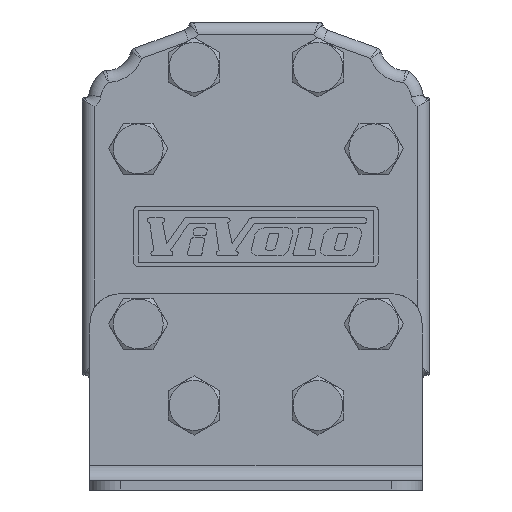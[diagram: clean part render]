
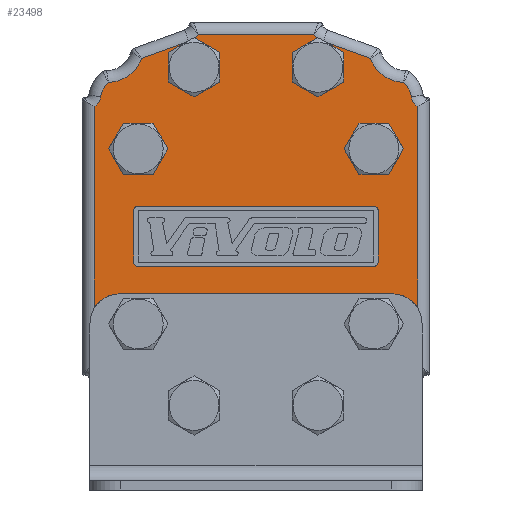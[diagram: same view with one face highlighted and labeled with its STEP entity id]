
A CAD part, front view. The second image highlights one B-rep face of the part: STEP entity #23498.
In plain terms, the highlighted planar face has unit normal (0, -1, 0).
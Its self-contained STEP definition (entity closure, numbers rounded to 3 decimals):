
#1738=LINE('',#36383,#3086);
#1739=LINE('',#36388,#3087);
#1740=LINE('',#36392,#3088);
#1741=LINE('',#36400,#3089);
#1742=LINE('',#36404,#3090);
#1743=LINE('',#36408,#3091);
#1744=LINE('',#36415,#3092);
#1745=LINE('',#36420,#3093);
#1746=LINE('',#36424,#3094);
#1747=LINE('',#36428,#3095);
#3086=VECTOR('',#29249,1000.);
#3087=VECTOR('',#29252,1000.);
#3088=VECTOR('',#29255,1000.);
#3089=VECTOR('',#29262,1000.);
#3090=VECTOR('',#29265,1000.);
#3091=VECTOR('',#29268,1000.);
#3092=VECTOR('',#29275,1000.);
#3093=VECTOR('',#29278,1000.);
#3094=VECTOR('',#29281,1000.);
#3095=VECTOR('',#29284,1000.);
#6876=ORIENTED_EDGE('',*,*,#10190,.F.);
#6877=ORIENTED_EDGE('',*,*,#10191,.F.);
#6878=ORIENTED_EDGE('',*,*,#10192,.T.);
#6879=ORIENTED_EDGE('',*,*,#10193,.T.);
#6880=ORIENTED_EDGE('',*,*,#10194,.F.);
#6881=ORIENTED_EDGE('',*,*,#10195,.T.);
#6882=ORIENTED_EDGE('',*,*,#10196,.T.);
#6883=ORIENTED_EDGE('',*,*,#10197,.T.);
#6884=ORIENTED_EDGE('',*,*,#10198,.T.);
#6885=ORIENTED_EDGE('',*,*,#10199,.T.);
#6886=ORIENTED_EDGE('',*,*,#10200,.T.);
#6887=ORIENTED_EDGE('',*,*,#10201,.T.);
#6888=ORIENTED_EDGE('',*,*,#10202,.T.);
#6889=ORIENTED_EDGE('',*,*,#10203,.T.);
#6890=ORIENTED_EDGE('',*,*,#10204,.T.);
#6891=ORIENTED_EDGE('',*,*,#10205,.T.);
#6892=ORIENTED_EDGE('',*,*,#10206,.T.);
#6893=ORIENTED_EDGE('',*,*,#10207,.T.);
#6894=ORIENTED_EDGE('',*,*,#10208,.F.);
#6895=ORIENTED_EDGE('',*,*,#10209,.F.);
#6896=ORIENTED_EDGE('',*,*,#10210,.F.);
#6897=ORIENTED_EDGE('',*,*,#10211,.F.);
#6898=ORIENTED_EDGE('',*,*,#10212,.F.);
#6899=ORIENTED_EDGE('',*,*,#10213,.F.);
#6900=ORIENTED_EDGE('',*,*,#10214,.F.);
#6901=ORIENTED_EDGE('',*,*,#10215,.F.);
#6902=ORIENTED_EDGE('',*,*,#10216,.F.);
#6903=ORIENTED_EDGE('',*,*,#10217,.F.);
#10190=EDGE_CURVE('',#12094,#12094,#13280,.F.);
#10191=EDGE_CURVE('',#12095,#12095,#13281,.F.);
#10192=EDGE_CURVE('',#12096,#12097,#1738,.F.);
#10193=EDGE_CURVE('',#12097,#12098,#13282,.T.);
#10194=EDGE_CURVE('',#12099,#12098,#1739,.T.);
#10195=EDGE_CURVE('',#12099,#12100,#13283,.T.);
#10196=EDGE_CURVE('',#12100,#12101,#1740,.F.);
#10197=EDGE_CURVE('',#12101,#12102,#13284,.T.);
#10198=EDGE_CURVE('',#12102,#12103,#13285,.F.);
#10199=EDGE_CURVE('',#12103,#12104,#13286,.T.);
#10200=EDGE_CURVE('',#12104,#12105,#1741,.F.);
#10201=EDGE_CURVE('',#12105,#12106,#13287,.T.);
#10202=EDGE_CURVE('',#12106,#12107,#1742,.F.);
#10203=EDGE_CURVE('',#12107,#12108,#13288,.T.);
#10204=EDGE_CURVE('',#12108,#12109,#1743,.F.);
#10205=EDGE_CURVE('',#12109,#12110,#13289,.T.);
#10206=EDGE_CURVE('',#12110,#12111,#13290,.F.);
#10207=EDGE_CURVE('',#12111,#12096,#13291,.T.);
#10208=EDGE_CURVE('',#12112,#12113,#1744,.T.);
#10209=EDGE_CURVE('',#12114,#12112,#13292,.T.);
#10210=EDGE_CURVE('',#12115,#12114,#1745,.T.);
#10211=EDGE_CURVE('',#12116,#12115,#13293,.T.);
#10212=EDGE_CURVE('',#12117,#12116,#1746,.T.);
#10213=EDGE_CURVE('',#12118,#12117,#13294,.T.);
#10214=EDGE_CURVE('',#12119,#12118,#1747,.T.);
#10215=EDGE_CURVE('',#12113,#12119,#13295,.T.);
#10216=EDGE_CURVE('',#12120,#12120,#13296,.F.);
#10217=EDGE_CURVE('',#12121,#12121,#13297,.F.);
#12094=VERTEX_POINT('',#36380);
#12095=VERTEX_POINT('',#36382);
#12096=VERTEX_POINT('',#36384);
#12097=VERTEX_POINT('',#36385);
#12098=VERTEX_POINT('',#36387);
#12099=VERTEX_POINT('',#36389);
#12100=VERTEX_POINT('',#36391);
#12101=VERTEX_POINT('',#36393);
#12102=VERTEX_POINT('',#36395);
#12103=VERTEX_POINT('',#36397);
#12104=VERTEX_POINT('',#36399);
#12105=VERTEX_POINT('',#36401);
#12106=VERTEX_POINT('',#36403);
#12107=VERTEX_POINT('',#36405);
#12108=VERTEX_POINT('',#36407);
#12109=VERTEX_POINT('',#36409);
#12110=VERTEX_POINT('',#36411);
#12111=VERTEX_POINT('',#36413);
#12112=VERTEX_POINT('',#36416);
#12113=VERTEX_POINT('',#36417);
#12114=VERTEX_POINT('',#36419);
#12115=VERTEX_POINT('',#36421);
#12116=VERTEX_POINT('',#36423);
#12117=VERTEX_POINT('',#36425);
#12118=VERTEX_POINT('',#36427);
#12119=VERTEX_POINT('',#36429);
#12120=VERTEX_POINT('',#36432);
#12121=VERTEX_POINT('',#36434);
#13280=CIRCLE('',#25150,8.);
#13281=CIRCLE('',#25151,8.);
#13282=CIRCLE('',#25152,10.);
#13283=CIRCLE('',#25153,10.);
#13284=CIRCLE('',#25154,5.);
#13285=CIRCLE('',#25155,8.006);
#13286=CIRCLE('',#25156,12.);
#13287=CIRCLE('',#25157,6.5);
#13288=CIRCLE('',#25158,6.5);
#13289=CIRCLE('',#25159,12.);
#13290=CIRCLE('',#25160,8.006);
#13291=CIRCLE('',#25161,5.);
#13292=CIRCLE('',#25162,1.5);
#13293=CIRCLE('',#25163,1.5);
#13294=CIRCLE('',#25164,1.5);
#13295=CIRCLE('',#25165,1.5);
#13296=CIRCLE('',#25166,8.);
#13297=CIRCLE('',#25167,8.);
#14197=EDGE_LOOP('',(#6876));
#14198=EDGE_LOOP('',(#6877));
#14199=EDGE_LOOP('',(#6878,#6879,#6880,#6881,#6882,#6883,#6884,#6885,#6886,
#6887,#6888,#6889,#6890,#6891,#6892,#6893));
#14200=EDGE_LOOP('',(#6894,#6895,#6896,#6897,#6898,#6899,#6900,#6901));
#14201=EDGE_LOOP('',(#6902));
#14202=EDGE_LOOP('',(#6903));
#15291=FACE_BOUND('',#14197,.T.);
#15292=FACE_BOUND('',#14198,.T.);
#15293=FACE_BOUND('',#14199,.T.);
#15294=FACE_BOUND('',#14200,.T.);
#15295=FACE_BOUND('',#14201,.T.);
#15296=FACE_BOUND('',#14202,.T.);
#15938=PLANE('',#25149);
#23498=ADVANCED_FACE('',(#15291,#15292,#15293,#15294,#15295,#15296),#15938,
 .F.);
#25149=AXIS2_PLACEMENT_3D('',#36378,#29243,#29244);
#25150=AXIS2_PLACEMENT_3D('',#36379,#29245,#29246);
#25151=AXIS2_PLACEMENT_3D('',#36381,#29247,#29248);
#25152=AXIS2_PLACEMENT_3D('',#36386,#29250,#29251);
#25153=AXIS2_PLACEMENT_3D('',#36390,#29253,#29254);
#25154=AXIS2_PLACEMENT_3D('',#36394,#29256,#29257);
#25155=AXIS2_PLACEMENT_3D('',#36396,#29258,#29259);
#25156=AXIS2_PLACEMENT_3D('',#36398,#29260,#29261);
#25157=AXIS2_PLACEMENT_3D('',#36402,#29263,#29264);
#25158=AXIS2_PLACEMENT_3D('',#36406,#29266,#29267);
#25159=AXIS2_PLACEMENT_3D('',#36410,#29269,#29270);
#25160=AXIS2_PLACEMENT_3D('',#36412,#29271,#29272);
#25161=AXIS2_PLACEMENT_3D('',#36414,#29273,#29274);
#25162=AXIS2_PLACEMENT_3D('',#36418,#29276,#29277);
#25163=AXIS2_PLACEMENT_3D('',#36422,#29279,#29280);
#25164=AXIS2_PLACEMENT_3D('',#36426,#29282,#29283);
#25165=AXIS2_PLACEMENT_3D('',#36430,#29285,#29286);
#25166=AXIS2_PLACEMENT_3D('',#36431,#29287,#29288);
#25167=AXIS2_PLACEMENT_3D('',#36433,#29289,#29290);
#29243=DIRECTION('',(0.,1.,0.));
#29244=DIRECTION('',(0.,0.,1.));
#29245=DIRECTION('',(0.,1.,0.));
#29246=DIRECTION('',(0.,0.,1.));
#29247=DIRECTION('',(0.,1.,0.));
#29248=DIRECTION('',(0.,0.,1.));
#29249=DIRECTION('',(0.,0.,1.));
#29250=DIRECTION('',(0.,1.,0.));
#29251=DIRECTION('',(0.,0.,1.));
#29252=DIRECTION('',(-1.,0.,0.));
#29253=DIRECTION('',(0.,1.,0.));
#29254=DIRECTION('',(0.,0.,1.));
#29255=DIRECTION('',(0.,0.,-1.));
#29256=DIRECTION('',(0.,1.,0.));
#29257=DIRECTION('',(0.,0.,1.));
#29258=DIRECTION('',(0.,1.,0.));
#29259=DIRECTION('',(0.,0.,1.));
#29260=DIRECTION('',(0.,1.,0.));
#29261=DIRECTION('',(0.,0.,1.));
#29262=DIRECTION('',(0.94,0.,-0.342));
#29263=DIRECTION('',(0.,1.,0.));
#29264=DIRECTION('',(0.,0.,1.));
#29265=DIRECTION('',(1.,0.,0.));
#29266=DIRECTION('',(0.,1.,0.));
#29267=DIRECTION('',(0.,0.,1.));
#29268=DIRECTION('',(0.94,0.,0.342));
#29269=DIRECTION('',(0.,1.,0.));
#29270=DIRECTION('',(0.,0.,1.));
#29271=DIRECTION('',(0.,1.,0.));
#29272=DIRECTION('',(0.,0.,1.));
#29273=DIRECTION('',(0.,1.,0.));
#29274=DIRECTION('',(0.,0.,1.));
#29275=DIRECTION('',(-1.,0.,0.));
#29276=DIRECTION('',(0.,-1.,0.));
#29277=DIRECTION('',(-1.,0.,0.));
#29278=DIRECTION('',(0.,0.,1.));
#29279=DIRECTION('',(0.,-1.,0.));
#29280=DIRECTION('',(-1.,0.,0.));
#29281=DIRECTION('',(1.,0.,0.));
#29282=DIRECTION('',(0.,-1.,0.));
#29283=DIRECTION('',(1.,0.,0.));
#29284=DIRECTION('',(0.,0.,-1.));
#29285=DIRECTION('',(0.,-1.,0.));
#29286=DIRECTION('',(1.,0.,0.));
#29287=DIRECTION('',(0.,1.,0.));
#29288=DIRECTION('',(0.,0.,1.));
#29289=DIRECTION('',(0.,1.,0.));
#29290=DIRECTION('',(0.,0.,1.));
#36378=CARTESIAN_POINT('',(-39.521,-30.,60.467));
#36379=CARTESIAN_POINT('',(-20.5,-30.,56.));
#36380=CARTESIAN_POINT('',(-20.5,-30.,64.));
#36381=CARTESIAN_POINT('',(39.,-30.,29.));
#36382=CARTESIAN_POINT('',(39.,-30.,37.));
#36383=CARTESIAN_POINT('',(-53.5,-30.,-45.5));
#36384=CARTESIAN_POINT('',(-53.5,-30.,42.908));
#36385=CARTESIAN_POINT('',(-53.5,-30.,-23.732));
#36386=CARTESIAN_POINT('',(-45.,-30.,-29.));
#36387=CARTESIAN_POINT('',(-45.,-30.,-19.));
#36388=CARTESIAN_POINT('',(55.,-30.,-19.));
#36389=CARTESIAN_POINT('',(45.,-30.,-19.));
#36390=CARTESIAN_POINT('',(45.,-30.,-29.));
#36391=CARTESIAN_POINT('',(53.5,-30.,-23.732));
#36392=CARTESIAN_POINT('',(53.5,-30.,45.5));
#36393=CARTESIAN_POINT('',(53.5,-30.,42.908));
#36394=CARTESIAN_POINT('',(56.373,-30.,47.));
#36395=CARTESIAN_POINT('',(51.434,-30.,46.222));
#36396=CARTESIAN_POINT('',(43.526,-30.,44.978));
#36397=CARTESIAN_POINT('',(48.816,-30.,50.986));
#36398=CARTESIAN_POINT('',(49.2,-30.,62.98));
#36399=CARTESIAN_POINT('',(37.905,-30.,58.927));
#36400=CARTESIAN_POINT('',(22.295,-30.,64.613));
#36401=CARTESIAN_POINT('',(22.295,-30.,64.613));
#36402=CARTESIAN_POINT('',(24.52,-30.,70.72));
#36403=CARTESIAN_POINT('',(19.189,-30.,67.));
#36404=CARTESIAN_POINT('',(-20.859,-30.,67.));
#36405=CARTESIAN_POINT('',(-19.189,-30.,67.));
#36406=CARTESIAN_POINT('',(-24.52,-30.,70.72));
#36407=CARTESIAN_POINT('',(-22.295,-30.,64.613));
#36408=CARTESIAN_POINT('',(-38.836,-30.,58.587));
#36409=CARTESIAN_POINT('',(-37.905,-30.,58.927));
#36410=CARTESIAN_POINT('',(-49.2,-30.,62.98));
#36411=CARTESIAN_POINT('',(-48.816,-30.,50.986));
#36412=CARTESIAN_POINT('',(-43.526,-30.,44.978));
#36413=CARTESIAN_POINT('',(-51.434,-30.,46.222));
#36414=CARTESIAN_POINT('',(-56.373,-30.,47.));
#36415=CARTESIAN_POINT('',(38.989,-30.,10.));
#36416=CARTESIAN_POINT('',(38.989,-30.,10.));
#36417=CARTESIAN_POINT('',(-39.011,-30.,10.));
#36418=CARTESIAN_POINT('',(38.989,-30.,8.5));
#36419=CARTESIAN_POINT('',(40.489,-30.,8.5));
#36420=CARTESIAN_POINT('',(40.489,-30.,-8.5));
#36421=CARTESIAN_POINT('',(40.489,-30.,-8.5));
#36422=CARTESIAN_POINT('',(38.989,-30.,-8.5));
#36423=CARTESIAN_POINT('',(38.989,-30.,-10.));
#36424=CARTESIAN_POINT('',(-39.011,-30.,-10.));
#36425=CARTESIAN_POINT('',(-39.011,-30.,-10.));
#36426=CARTESIAN_POINT('',(-39.011,-30.,-8.5));
#36427=CARTESIAN_POINT('',(-40.511,-30.,-8.5));
#36428=CARTESIAN_POINT('',(-40.511,-30.,8.5));
#36429=CARTESIAN_POINT('',(-40.511,-30.,8.5));
#36430=CARTESIAN_POINT('',(-39.011,-30.,8.5));
#36431=CARTESIAN_POINT('',(20.5,-30.,56.));
#36432=CARTESIAN_POINT('',(20.5,-30.,64.));
#36433=CARTESIAN_POINT('',(-39.,-30.,29.));
#36434=CARTESIAN_POINT('',(-39.,-30.,37.));
